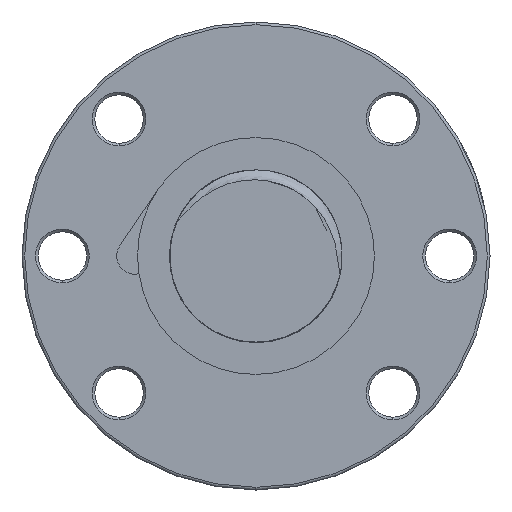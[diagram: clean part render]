
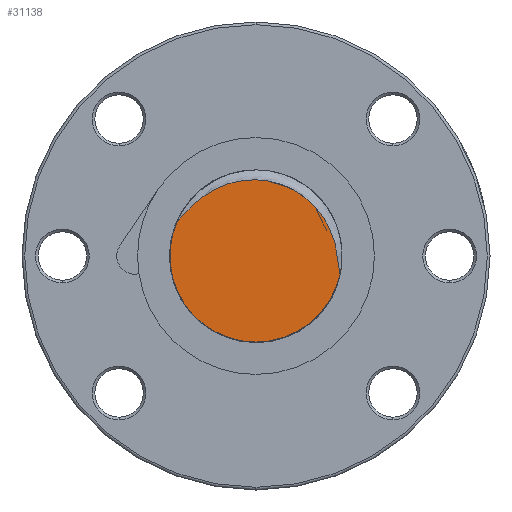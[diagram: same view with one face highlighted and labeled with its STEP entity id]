
A CAD part, left-side view. The second image highlights one B-rep face of the part: STEP entity #31138.
In plain terms, the highlighted planar face has unit normal (-1, 0, 0).
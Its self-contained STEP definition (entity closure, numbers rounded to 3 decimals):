
#9461 = CARTESIAN_POINT ( 'NONE',  ( -197., 7.018, 12.72 ) ) ;
#9464 = CARTESIAN_POINT ( 'NONE',  ( -197., 4.036, 13.742 ) ) ;
#9466 = CARTESIAN_POINT ( 'NONE',  ( -197., 2.715, 14.023 ) ) ;
#9471 = CARTESIAN_POINT ( 'NONE',  ( -197., -6.479, 12.567 ) ) ;
#9474 = CARTESIAN_POINT ( 'NONE',  ( -197., 5.767, 13.218 ) ) ;
#9500 = CARTESIAN_POINT ( 'NONE',  ( -197., 0.029, 14.179 ) ) ;
#9504 = CARTESIAN_POINT ( 'NONE',  ( -197., 5.342, 13.367 ) ) ;
#9506 = CARTESIAN_POINT ( 'NONE',  ( -197., -7.665, 11.931 ) ) ;
#9517 = CARTESIAN_POINT ( 'NONE',  ( -197., -8.412, 11.44 ) ) ;
#9520 = CARTESIAN_POINT ( 'NONE',  ( -197., -9.47, 10.604 ) ) ;
#9569 = CARTESIAN_POINT ( 'NONE',  ( -197., -4.816, 13.28 ) ) ;
#9588 = CARTESIAN_POINT ( 'NONE',  ( -197., 4.476, 13.629 ) ) ;
#9591 = CARTESIAN_POINT ( 'NONE',  ( -197., -3.534, 13.699 ) ) ;
#9616 = CARTESIAN_POINT ( 'NONE',  ( -197., -2.662, 13.901 ) ) ;
#9619 = CARTESIAN_POINT ( 'NONE',  ( -197., -5.239, 13.12 ) ) ;
#9659 = CARTESIAN_POINT ( 'NONE',  ( -197., -0.877, 14.132 ) ) ;
#9721 = CARTESIAN_POINT ( 'NONE',  ( -197., -6.073, 12.763 ) ) ;
#9726 = CARTESIAN_POINT ( 'NONE',  ( -197., 1.826, 14.133 ) ) ;
#9753 = CARTESIAN_POINT ( 'NONE',  ( -197., 0.48, 14.182 ) ) ;
#9794 = CARTESIAN_POINT ( 'NONE',  ( -197., -1.327, 14.089 ) ) ;
#9857 = CARTESIAN_POINT ( 'NONE',  ( -197., -9.813, 10.309 ) ) ;
#9914 = CARTESIAN_POINT ( 'NONE',  ( -197., 8.979, 11.625 ) ) ;
#9915 = CARTESIAN_POINT ( 'NONE',  ( -197., 7.82, 12.32 ) ) ;
#9929 = CARTESIAN_POINT ( 'NONE',  ( -197., 9.359, 11.376 ) ) ;
#9964 = CARTESIAN_POINT ( 'NONE',  ( -197., 13.394, 7.768 ) ) ;
#9971 = CARTESIAN_POINT ( 'NONE',  ( -197., 13.09, 8.103 ) ) ;
#10078 = CARTESIAN_POINT ( 'NONE',  ( -197., 10.097, 10.852 ) ) ;
#10160 = CARTESIAN_POINT ( 'NONE',  ( -197., 10.455, 10.576 ) ) ;
#10188 = CARTESIAN_POINT ( 'NONE',  ( -197., 11.498, 9.714 ) ) ;
#10229 = CARTESIAN_POINT ( 'NONE',  ( -197., 12.153, 9.087 ) ) ;
#10356 = CARTESIAN_POINT ( 'NONE',  ( -197., 13.85, 7.265 ) ) ;
#10389 = CARTESIAN_POINT ( 'NONE',  ( -197., 14.47, 6.605 ) ) ;
#10391 = CARTESIAN_POINT ( 'NONE',  ( -197., 14.313, 6.767 ) ) ;
#10400 = CARTESIAN_POINT ( 'NONE',  ( -197., 14.003, 7.097 ) ) ;
#10712 = CARTESIAN_POINT ( 'NONE',  ( -197., 14.64, 6.455 ) ) ;
#11271 = CARTESIAN_POINT ( 'NONE',  ( -197., -10.473, 9.687 ) ) ;
#11356 = CARTESIAN_POINT ( 'NONE',  ( -197., -10.788, 9.364 ) ) ;
#16317 = CARTESIAN_POINT ( 'NONE',  ( -197., -13.164, 6.109 ) ) ;
#16576 = DIRECTION ( 'NONE',  ( 1., 0., 0. ) ) ;
#16577 = AXIS2_PLACEMENT_3D ( 'NONE', #16583, #16576, #16657 ) ;
#16578 = CIRCLE ( 'NONE', #16577, 16. ) ;
#16583 = CARTESIAN_POINT ( 'NONE',  ( -197., 0., 0. ) ) ;
#16655 = CARTESIAN_POINT ( 'NONE',  ( -197., -15.638, -3.384 ) ) ;
#16657 = DIRECTION ( 'NONE',  ( 0., 1., 0. ) ) ;
#17619 = CARTESIAN_POINT ( 'NONE',  ( -197., -11.685, 8.36 ) ) ;
#17620 = CARTESIAN_POINT ( 'NONE',  ( -197., -12.222, 7.644 ) ) ;
#17626 = CARTESIAN_POINT ( 'NONE',  ( -197., -12.939, 6.502 ) ) ;
#17899 = CARTESIAN_POINT ( 'NONE',  ( -197., -13.581, 5.305 ) ) ;
#17900 = CARTESIAN_POINT ( 'NONE',  ( -197., -13.772, 4.897 ) ) ;
#17901 = CARTESIAN_POINT ( 'NONE',  ( -197., -14.293, 3.659 ) ) ;
#17902 = CARTESIAN_POINT ( 'NONE',  ( -197., -14.572, 2.812 ) ) ;
#17903 = CARTESIAN_POINT ( 'NONE',  ( -197., -15.015, 1.083 ) ) ;
#17904 = CARTESIAN_POINT ( 'NONE',  ( -197., -15.175, 0.199 ) ) ;
#17905 = CARTESIAN_POINT ( 'NONE',  ( -197., -15.353, -1.144 ) ) ;
#17906 = CARTESIAN_POINT ( 'NONE',  ( -197., -15.402, -1.593 ) ) ;
#17907 = CARTESIAN_POINT ( 'NONE',  ( -197., -15.475, -2.267 ) ) ;
#17908 = CARTESIAN_POINT ( 'NONE',  ( -197., -15.5, -2.491 ) ) ;
#17909 = CARTESIAN_POINT ( 'NONE',  ( -197., -15.557, -2.939 ) ) ;
#17910 = CARTESIAN_POINT ( 'NONE',  ( -197., -15.589, -3.164 ) ) ;
#17911 = CARTESIAN_POINT ( 'NONE',  ( -197., -15.638, -3.384 ) ) ;
#17912 = B_SPLINE_CURVE_WITH_KNOTS ( 'NONE', 3,
 ( #17911, #17910, #17909, #17908, #17907, #17906, #17905, #17904, #17903, #17902, #17901, #17900, #17899, #16317, #17626, #17620, #17619, #11356, #11271, #9857, #9520, #9517, #9506, #9471, #9721, #9619, #9569, #9591, #9616, #9794, #9659, #9500, #9753, #9726, #9466, #9464, #9588, #9504, #9474, #9461, #9915, #9914, #9929, #10078, #10160, #10188, #10229, #9971, #9964, #10356, #10400, #10391, #10389, #10712 ),
 .UNSPECIFIED., .F., .F.,
 ( 4, 2, 2, 2, 2, 2, 2, 2, 2, 2, 2, 2, 2, 2, 2, 2, 2, 2, 2, 2, 2, 2, 2, 2, 2, 2, 4 ),
 ( 0.001, 0.002, 0.002, 0.004, 0.006, 0.009, 0.011, 0.012, 0.015, 0.016, 0.017, 0.02, 0.021, 0.023, 0.026, 0.027, 0.028, 0.031, 0.032, 0.034, 0.037, 0.038, 0.039, 0.042, 0.043, 0.044, 0.045 ),
 .UNSPECIFIED. ) ;
#17963 = FACE_OUTER_BOUND ( 'NONE', #31131, .T. ) ;
#17981 = DIRECTION ( 'NONE',  ( 0., 0., -1. ) ) ;
#17982 = DIRECTION ( 'NONE',  ( 1., 0., 0. ) ) ;
#17983 = CARTESIAN_POINT ( 'NONE',  ( -197., 0., 0. ) ) ;
#17984 = AXIS2_PLACEMENT_3D ( 'NONE', #17983, #17982, #17981 ) ;
#17985 = PLANE ( 'NONE',  #17984 ) ;
#25065 = EDGE_CURVE ( 'NONE', #25096, #26193, #29114, .T. ) ;
#25096 = VERTEX_POINT ( 'NONE', #29105 ) ;
#26193 = VERTEX_POINT ( 'NONE', #29668 ) ;
#26797 = EDGE_CURVE ( 'NONE', #26798, #25096, #16578, .T. ) ;
#26798 = VERTEX_POINT ( 'NONE', #16655 ) ;
#29105 = CARTESIAN_POINT ( 'NONE',  ( -197., 0., -16. ) ) ;
#29110 = DIRECTION ( 'NONE',  ( 0., 1., 0. ) ) ;
#29111 = DIRECTION ( 'NONE',  ( 1., 0., 0. ) ) ;
#29112 = CARTESIAN_POINT ( 'NONE',  ( -197., 0., 0. ) ) ;
#29113 = AXIS2_PLACEMENT_3D ( 'NONE', #29112, #29111, #29110 ) ;
#29114 = CIRCLE ( 'NONE', #29113, 16. ) ;
#29668 = CARTESIAN_POINT ( 'NONE',  ( -197., 14.64, 6.455 ) ) ;
#31126 = EDGE_CURVE ( 'NONE', #26798, #26193, #17912, .T. ) ;
#31129 = ORIENTED_EDGE ( 'NONE', *, *, #26797, .F. ) ;
#31131 = EDGE_LOOP ( 'NONE', ( #31129, #31134, #31136 ) ) ;
#31134 = ORIENTED_EDGE ( 'NONE', *, *, #31126, .T. ) ;
#31136 = ORIENTED_EDGE ( 'NONE', *, *, #25065, .F. ) ;
#31138 = ADVANCED_FACE ( 'NONE', ( #17963 ), #17985, .F. ) ;
